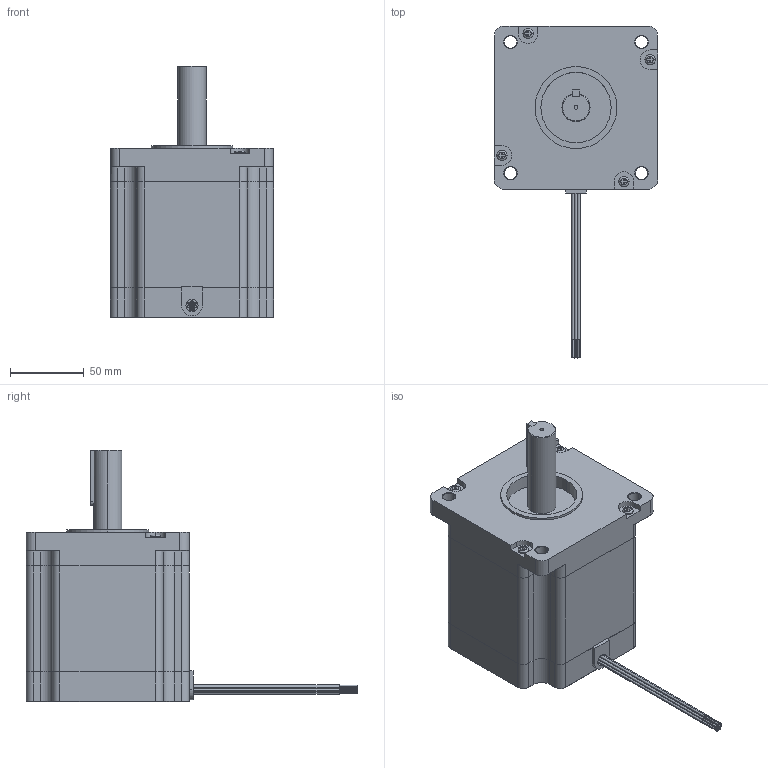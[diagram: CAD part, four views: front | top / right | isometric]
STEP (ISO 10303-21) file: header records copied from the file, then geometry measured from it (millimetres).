
FILE_DESCRIPTION (( 'STEP AP214' ), '1' );
FILE_NAME ('42Y102S-LW8.STEP', '2010-06-11T15:39:06', ( 'Tim Raines' ), ( 'Anaheim Automation' ), 'SwSTEP 2.0', 'SolidWorks 2010', '' );
FILE_SCHEMA (( 'AUTOMOTIVE_DESIGN' ));
Length unit declared in the file: inch
Products named in the file (1): 42Y102S-LW8
Bounding box: 110.62 x 224.92 x 170.61 mm (x, y, z)
Volume: 1274743.9 mm3; surface area: 85114.7 mm2
Topology: 1 solids, 1 shells, 360 faces, 905 edges, 573 vertices
Faces by surface type: plane 178, cylinder 121, cone 53, torus 8
Entity records: 15592 total; most frequent: CARTESIAN_POINT 2145, DIRECTION 1858, ORIENTED_EDGE 1794, EDGE_CURVE 897, AXIS2_PLACEMENT_3D 670, VERTEX_POINT 573, LINE 518, VECTOR 518
